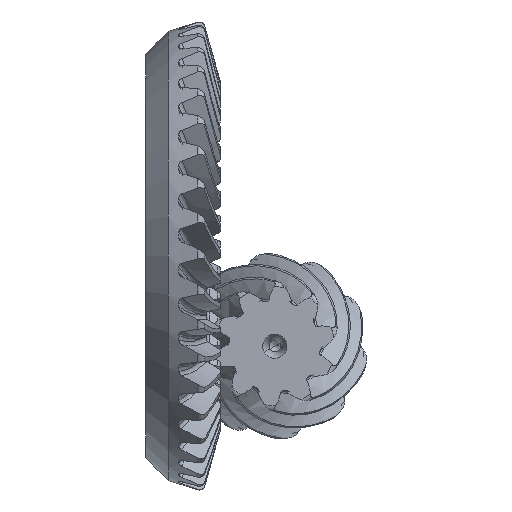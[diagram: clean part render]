
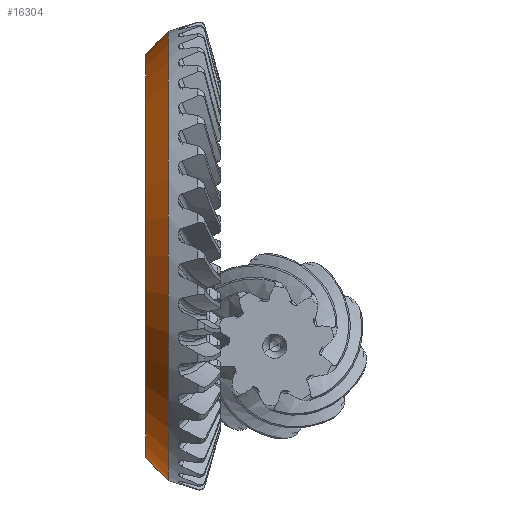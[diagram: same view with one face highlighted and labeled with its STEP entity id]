
A CAD part, left-side view. The second image highlights one B-rep face of the part: STEP entity #16304.
In plain terms, the highlighted conical face has half-angle 45 degrees and reference radius 75.006 mm.
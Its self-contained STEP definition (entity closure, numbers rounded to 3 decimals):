
#149=CARTESIAN_POINT('',(27.5,0.,0.));
#150=DIRECTION('',(1.,0.,0.));
#151=DIRECTION('',(0.,0.,1.));
#152=AXIS2_PLACEMENT_3D('',#149,#150,#151);
#262=CARTESIAN_POINT('',(19.487,0.,0.));
#263=DIRECTION('',(1.,0.,0.));
#264=DIRECTION('',(0.,0.,1.));
#265=AXIS2_PLACEMENT_3D('',#262,#263,#264);
#270=DIRECTION('',(0.707,0.,-0.707));
#271=VECTOR('',#270,11.332);
#272=CARTESIAN_POINT('',(19.487,0.,79.013));
#273=LINE('',#272,#271);
#285=DIRECTION('',(0.707,0.,0.707));
#286=VECTOR('',#285,11.332);
#287=CARTESIAN_POINT('',(19.487,0.,
-79.013));
#288=LINE('',#287,#286);
#15235=CARTESIAN_POINT('',(19.487,0.,79.013));
#15236=CARTESIAN_POINT('',(27.5,0.,71.));
#15237=VERTEX_POINT('',#15235);
#15238=VERTEX_POINT('',#15236);
#15243=CARTESIAN_POINT('',(19.487,0.,
-79.013));
#15244=CARTESIAN_POINT('',(27.5,0.,-71.));
#15245=VERTEX_POINT('',#15243);
#15246=VERTEX_POINT('',#15244);
#16290=CARTESIAN_POINT('',(23.494,0.,0.));
#16291=DIRECTION('',(-1.,0.,0.));
#16292=DIRECTION('',(0.,0.,-1.));
#16293=AXIS2_PLACEMENT_3D('',#16290,#16291,#16292);
#16294=CONICAL_SURFACE('',#16293,75.006,45.);
#16296=ORIENTED_EDGE('',*,*,#16295,.T.);
#16297=ORIENTED_EDGE('',*,*,#16241,.T.);
#16299=ORIENTED_EDGE('',*,*,#16298,.F.);
#16301=ORIENTED_EDGE('',*,*,#16300,.F.);
#16302=EDGE_LOOP('',(#16296,#16297,#16299,#16301));
#16303=FACE_OUTER_BOUND('',#16302,.F.);
#16304=ADVANCED_FACE('',(#16303),#16294,.T.);
#153=CIRCLE('',#152,71.);
#266=CIRCLE('',#265,79.013);
#16241=EDGE_CURVE('',#15238,#15246,#153,.T.);
#16295=EDGE_CURVE('',#15237,#15238,#273,.T.);
#16298=EDGE_CURVE('',#15245,#15246,#288,.T.);
#16300=EDGE_CURVE('',#15237,#15245,#266,.T.);
